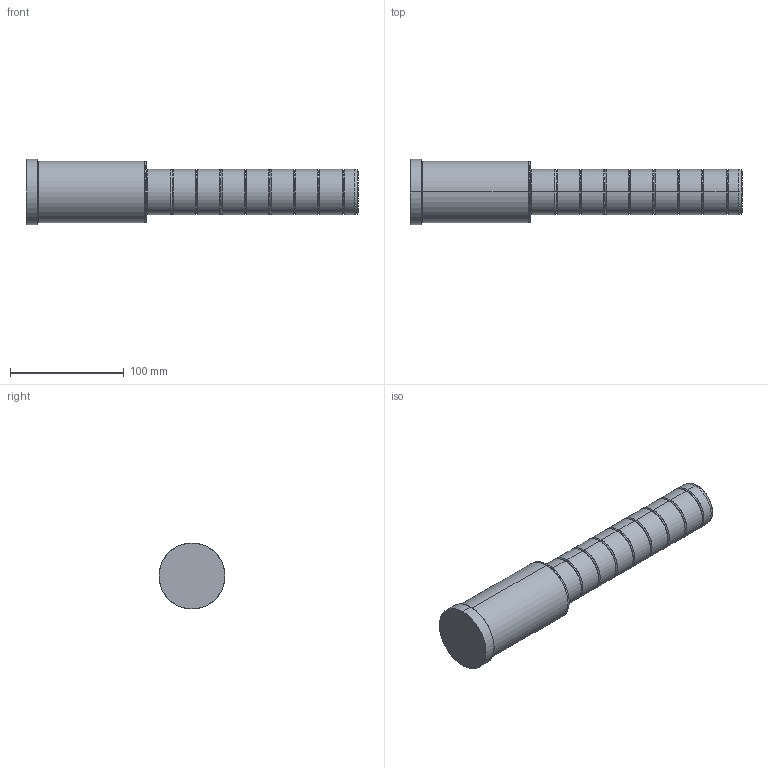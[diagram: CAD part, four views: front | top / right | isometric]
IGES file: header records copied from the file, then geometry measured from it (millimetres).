
Start section: SolidWorks IGES file using analytic representation for surfaces
Global section: file name: C:\Documents and Settings\kalite-mail\Desktop\IGS\D02\40\D02 - 40x106x186.IGS; native system: SolidWorks 2008; preprocessor: SolidWorks 2008; author: kalite-mail; date: 080617.101942; units: millimetre
Bounding box: 292 x 58 x 58 mm (x, y, z)
Surface area: 47624.2 mm2 (no closed solid volume)
Topology: 0 solids, 0 shells, 72 faces, 904 edges, 904 vertices
Faces by surface type: bspline 42, revolution 30
